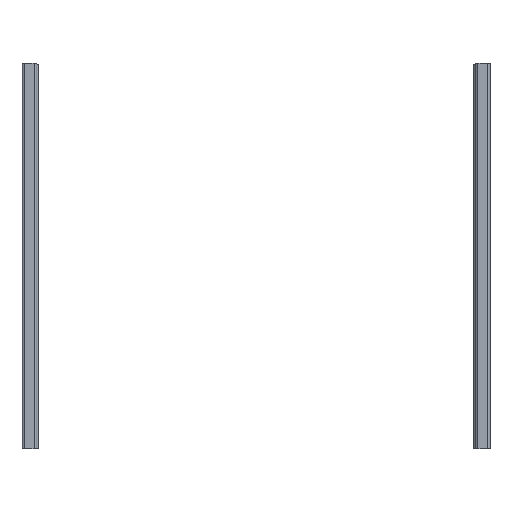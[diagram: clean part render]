
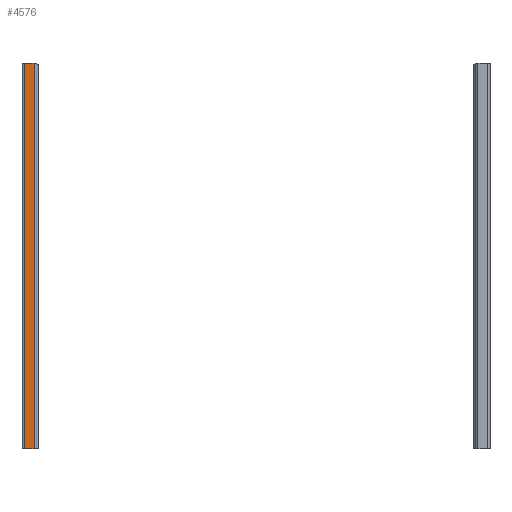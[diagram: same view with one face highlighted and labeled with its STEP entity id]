
A CAD part, front view. The second image highlights one B-rep face of the part: STEP entity #4576.
In plain terms, the highlighted planar face has unit normal (0, -1, 0).
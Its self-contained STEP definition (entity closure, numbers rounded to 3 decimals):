
#607=LINE('',#7079,#1014);
#661=LINE('',#7196,#1068);
#662=LINE('',#7199,#1069);
#663=LINE('',#7200,#1070);
#1014=VECTOR('',#5670,7.4);
#1068=VECTOR('',#5846,300.);
#1069=VECTOR('',#5849,7.4);
#1070=VECTOR('',#5850,300.);
#1312=PLANE('',#4925);
#1480=FACE_OUTER_BOUND('',#1744,.T.);
#1744=EDGE_LOOP('',(#3842,#3843,#3844,#3845));
#2335=VERTEX_POINT('',#7076);
#2336=VERTEX_POINT('',#7078);
#2338=VERTEX_POINT('',#7194);
#2339=VERTEX_POINT('',#7198);
#2821=EDGE_CURVE('',#2335,#2336,#607,.T.);
#2877=EDGE_CURVE('',#2338,#2335,#661,.T.);
#2878=EDGE_CURVE('',#2338,#2339,#662,.T.);
#2879=EDGE_CURVE('',#2336,#2339,#663,.T.);
#3842=ORIENTED_EDGE('',*,*,#2877,.F.);
#3843=ORIENTED_EDGE('',*,*,#2878,.T.);
#3844=ORIENTED_EDGE('',*,*,#2879,.F.);
#3845=ORIENTED_EDGE('',*,*,#2821,.F.);
#4576=ADVANCED_FACE('',(#1480),#1312,.T.);
#4925=AXIS2_PLACEMENT_3D('',#7197,#5847,#5848);
#5670=DIRECTION('',(-1.,0.,0.));
#5846=DIRECTION('',(0.,0.,-1.));
#5847=DIRECTION('center_axis',(0.,-1.,0.));
#5848=DIRECTION('ref_axis',(-1.,0.,0.));
#5849=DIRECTION('',(-1.,0.,0.));
#5850=DIRECTION('',(0.,0.,1.));
#7076=CARTESIAN_POINT('',(9.4,-21.85,-300.));
#7078=CARTESIAN_POINT('',(2.,-21.85,-300.));
#7079=CARTESIAN_POINT('',(11.4,-21.85,-300.));
#7194=CARTESIAN_POINT('',(9.4,-21.85,0.));
#7196=CARTESIAN_POINT('',(9.4,-21.85,0.));
#7197=CARTESIAN_POINT('Origin',(11.4,-21.85,0.));
#7198=CARTESIAN_POINT('',(2.,-21.85,0.));
#7199=CARTESIAN_POINT('',(11.4,-21.85,0.));
#7200=CARTESIAN_POINT('',(2.,-21.85,0.));
